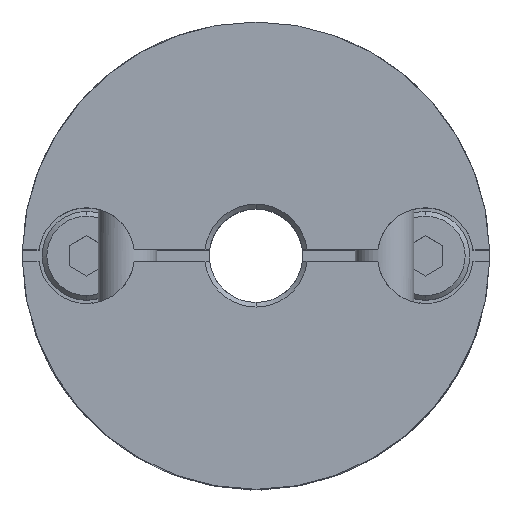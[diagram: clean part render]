
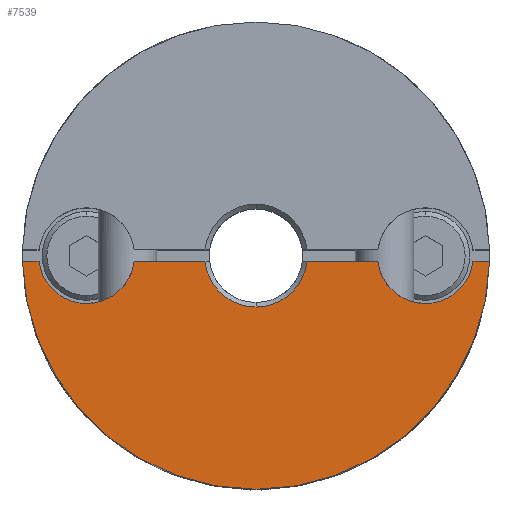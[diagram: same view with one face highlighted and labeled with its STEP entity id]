
A CAD part, top view. The second image highlights one B-rep face of the part: STEP entity #7539.
In plain terms, the highlighted planar face has unit normal (0, 0, 1).
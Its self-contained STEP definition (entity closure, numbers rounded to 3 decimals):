
#809=CARTESIAN_POINT('',(0.,-10.,9.4));
#810=VERTEX_POINT('',#809);
#817=CARTESIAN_POINT('',(-9.997,-0.25,9.4));
#818=VERTEX_POINT('',#817);
#819=CARTESIAN_POINT('',(0.,0.,9.4));
#820=DIRECTION('',(0.0,0.0,-1.0));
#821=DIRECTION('',(0.0,1.0,0.0));
#822=AXIS2_PLACEMENT_3D('',#819,#820,#821);
#823=CIRCLE('',#822,10.0);
#824=EDGE_CURVE('',#810,#818,#823,.T.);
#1024=CARTESIAN_POINT('',(0.,-2.2,9.4));
#1025=VERTEX_POINT('',#1024);
#1033=CARTESIAN_POINT('',(-2.186,-0.25,9.4));
#1034=VERTEX_POINT('',#1033);
#1048=CARTESIAN_POINT('',(0.,0.,9.4));
#1049=DIRECTION('',(0.0,0.0,1.0));
#1050=DIRECTION('',(0.0,-1.0,0.0));
#1051=AXIS2_PLACEMENT_3D('',#1048,#1049,#1050);
#1052=CIRCLE('',#1051,2.2);
#1053=EDGE_CURVE('',#1034,#1025,#1052,.T.);
#1345=CARTESIAN_POINT('',(-7.25,-2.05,9.4));
#1346=VERTEX_POINT('',#1345);
#1362=CARTESIAN_POINT('',(-9.285,-0.25,9.4));
#1363=VERTEX_POINT('',#1362);
#1370=CARTESIAN_POINT('',(-7.25,0.,9.4));
#1371=DIRECTION('',(0.0,0.0,-1.0));
#1372=DIRECTION('',(0.0,1.0,0.0));
#1373=AXIS2_PLACEMENT_3D('',#1370,#1371,#1372);
#1374=CIRCLE('',#1373,2.05);
#1375=EDGE_CURVE('',#1346,#1363,#1374,.T.);
#1693=CARTESIAN_POINT('',(7.25,-2.05,9.4));
#1694=VERTEX_POINT('',#1693);
#1772=CARTESIAN_POINT('',(5.215,-0.25,9.4));
#1773=VERTEX_POINT('',#1772);
#1780=CARTESIAN_POINT('',(7.25,0.,9.4));
#1781=DIRECTION('',(0.0,0.0,-1.0));
#1782=DIRECTION('',(0.0,1.0,0.0));
#1783=AXIS2_PLACEMENT_3D('',#1780,#1781,#1782);
#1784=CIRCLE('',#1783,2.05);
#1785=EDGE_CURVE('',#1694,#1773,#1784,.T.);
#5992=CARTESIAN_POINT('',(9.285,-0.25,9.4));
#5993=VERTEX_POINT('',#5992);
#5994=CARTESIAN_POINT('',(7.25,0.,9.4));
#5995=DIRECTION('',(0.0,0.0,-1.0));
#5996=DIRECTION('',(0.0,1.0,0.0));
#5997=AXIS2_PLACEMENT_3D('',#5994,#5995,#5996);
#5998=CIRCLE('',#5997,2.05);
#5999=EDGE_CURVE('',#5993,#1694,#5998,.T.);
#6444=CARTESIAN_POINT('',(-5.215,-0.25,9.4));
#6445=VERTEX_POINT('',#6444);
#6446=CARTESIAN_POINT('',(-7.25,0.,9.4));
#6447=DIRECTION('',(0.0,0.0,-1.0));
#6448=DIRECTION('',(0.0,1.0,0.0));
#6449=AXIS2_PLACEMENT_3D('',#6446,#6447,#6448);
#6450=CIRCLE('',#6449,2.05);
#6451=EDGE_CURVE('',#6445,#1346,#6450,.T.);
#6574=CARTESIAN_POINT('',(-2.186,-0.25,9.4));
#6575=DIRECTION('',(-1.0,0.0,0.0));
#6576=VECTOR('',#6575,3.03);
#6577=LINE('',#6574,#6576);
#6578=EDGE_CURVE('',#1034,#6445,#6577,.T.);
#6642=CARTESIAN_POINT('',(2.186,-0.25,9.4));
#6643=VERTEX_POINT('',#6642);
#6657=CARTESIAN_POINT('',(5.215,-0.25,9.4));
#6658=DIRECTION('',(-1.0,0.0,0.0));
#6659=VECTOR('',#6658,3.03);
#6660=LINE('',#6657,#6659);
#6661=EDGE_CURVE('',#1773,#6643,#6660,.T.);
#7317=CARTESIAN_POINT('',(9.997,-0.25,9.4));
#7318=VERTEX_POINT('',#7317);
#7319=CARTESIAN_POINT('',(9.997,-0.25,9.4));
#7320=DIRECTION('',(-1.0,0.0,0.0));
#7321=VECTOR('',#7320,0.712);
#7322=LINE('',#7319,#7321);
#7323=EDGE_CURVE('',#7318,#5993,#7322,.T.);
#7423=CARTESIAN_POINT('',(-9.285,-0.25,9.4));
#7424=DIRECTION('',(-1.0,0.0,0.0));
#7425=VECTOR('',#7424,0.712);
#7426=LINE('',#7423,#7425);
#7427=EDGE_CURVE('',#1363,#818,#7426,.T.);
#7508=CARTESIAN_POINT('',(0.,0.909,9.4));
#7509=DIRECTION('',(0.0,0.0,1.0));
#7510=DIRECTION('',(0.0,1.0,0.0));
#7511=AXIS2_PLACEMENT_3D('',#7508,#7509,#7510);
#7512=PLANE('',#7511);
#7513=ORIENTED_EDGE('',*,*,#5999,.T.);
#7514=ORIENTED_EDGE('',*,*,#1785,.T.);
#7515=ORIENTED_EDGE('',*,*,#6661,.T.);
#7516=CARTESIAN_POINT('',(0.,0.,9.4));
#7517=DIRECTION('',(0.0,0.0,1.0));
#7518=DIRECTION('',(0.0,-1.0,0.0));
#7519=AXIS2_PLACEMENT_3D('',#7516,#7517,#7518);
#7520=CIRCLE('',#7519,2.2);
#7521=EDGE_CURVE('',#1025,#6643,#7520,.T.);
#7522=ORIENTED_EDGE('',*,*,#7521,.F.);
#7523=ORIENTED_EDGE('',*,*,#1053,.F.);
#7524=ORIENTED_EDGE('',*,*,#6578,.T.);
#7525=ORIENTED_EDGE('',*,*,#6451,.T.);
#7526=ORIENTED_EDGE('',*,*,#1375,.T.);
#7527=ORIENTED_EDGE('',*,*,#7427,.T.);
#7528=ORIENTED_EDGE('',*,*,#824,.F.);
#7529=CARTESIAN_POINT('',(0.,0.,9.4));
#7530=DIRECTION('',(0.0,0.0,-1.0));
#7531=DIRECTION('',(0.0,1.0,0.0));
#7532=AXIS2_PLACEMENT_3D('',#7529,#7530,#7531);
#7533=CIRCLE('',#7532,10.0);
#7534=EDGE_CURVE('',#7318,#810,#7533,.T.);
#7535=ORIENTED_EDGE('',*,*,#7534,.F.);
#7536=ORIENTED_EDGE('',*,*,#7323,.T.);
#7537=EDGE_LOOP('',(#7513,#7514,#7515,#7522,#7523,#7524,#7525,#7526,#7527,#7528,#7535,#7536));
#7538=FACE_OUTER_BOUND('',#7537,.T.);
#7539=ADVANCED_FACE('',(#7538),#7512,.T.);
